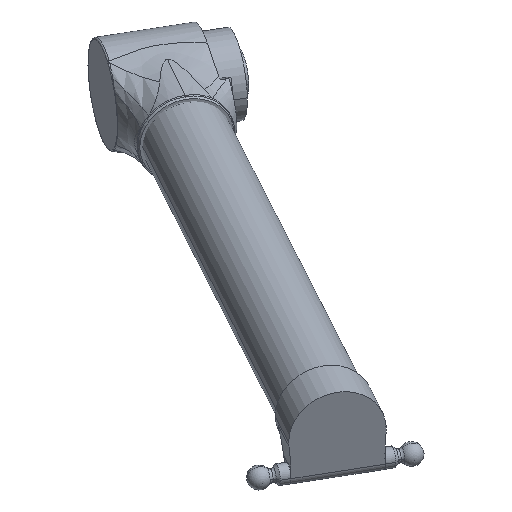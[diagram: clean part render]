
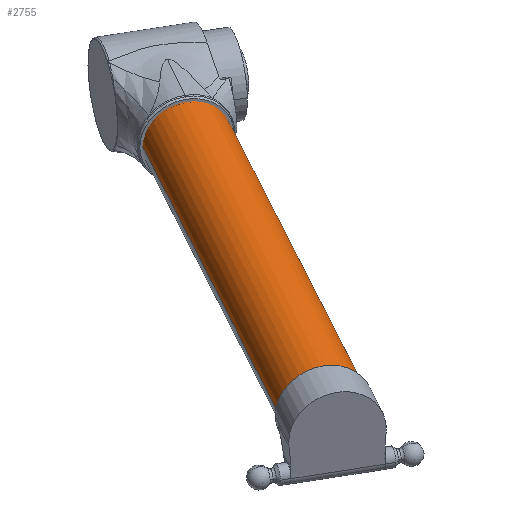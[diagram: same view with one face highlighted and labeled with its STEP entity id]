
A CAD part, isometric view. The second image highlights one B-rep face of the part: STEP entity #2755.
In plain terms, the highlighted cylindrical face has radius 29 mm (diameter 58 mm), a partial arc.
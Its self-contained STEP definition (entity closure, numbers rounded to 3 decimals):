
#38 = DIRECTION ( 'NONE',  ( 0.866, -0.5, 0. ) ) ;
#49 = EDGE_CURVE ( 'NONE', #2679, #90, #3511, .T. ) ;
#90 = VERTEX_POINT ( 'NONE', #3142 ) ;
#109 = CARTESIAN_POINT ( 'NONE',  ( -336.95, -525.614, -248.465 ) ) ;
#499 = AXIS2_PLACEMENT_3D ( 'NONE', #718, #3206, #38 ) ;
#718 = CARTESIAN_POINT ( 'NONE',  ( -120.21, -208.211, -272.468 ) ) ;
#737 = DIRECTION ( 'NONE',  ( -0.866, 0.5, 0. ) ) ;
#888 = AXIS2_PLACEMENT_3D ( 'NONE', #1655, #1866, #3549 ) ;
#943 = EDGE_CURVE ( 'NONE', #90, #1415, #4505, .T. ) ;
#1060 = DIRECTION ( 'NONE',  ( 0.499, 0.864, -0.063 ) ) ;
#1071 = VECTOR ( 'NONE', #3122, 1000. ) ;
#1411 = CARTESIAN_POINT ( 'NONE',  ( -336.95, -525.614, -248.465 ) ) ;
#1412 = CARTESIAN_POINT ( 'NONE',  ( -311.835, -540.114, -248.465 ) ) ;
#1415 = VERTEX_POINT ( 'NONE', #2422 ) ;
#1655 = CARTESIAN_POINT ( 'NONE',  ( -311.835, -540.114, -248.465 ) ) ;
#1683 = VERTEX_POINT ( 'NONE', #1411 ) ;
#1866 = DIRECTION ( 'NONE',  ( -0.499, -0.864, 0.063 ) ) ;
#2008 = AXIS2_PLACEMENT_3D ( 'NONE', #1412, #1060, #737 ) ;
#2285 = ORIENTED_EDGE ( 'NONE', *, *, #943, .T. ) ;
#2422 = CARTESIAN_POINT ( 'NONE',  ( -145.325, -193.711, -272.468 ) ) ;
#2497 = EDGE_CURVE ( 'NONE', #2679, #1683, #3848, .T. ) ;
#2679 = VERTEX_POINT ( 'NONE', #2716 ) ;
#2716 = CARTESIAN_POINT ( 'NONE',  ( -286.72, -554.614, -248.465 ) ) ;
#2755 = ADVANCED_FACE ( 'NONE', ( #3876 ), #3543, .T. ) ;
#2819 = CARTESIAN_POINT ( 'NONE',  ( -286.72, -554.614, -248.465 ) ) ;
#3122 = DIRECTION ( 'NONE',  ( 0.499, 0.864, -0.063 ) ) ;
#3142 = CARTESIAN_POINT ( 'NONE',  ( -95.096, -222.711, -272.468 ) ) ;
#3183 = VECTOR ( 'NONE', #3992, 1000. ) ;
#3206 = DIRECTION ( 'NONE',  ( -0.499, -0.864, 0.063 ) ) ;
#3410 = EDGE_LOOP ( 'NONE', ( #3518, #3960, #2285, #4510 ) ) ;
#3511 = LINE ( 'NONE', #2819, #1071 ) ;
#3518 = ORIENTED_EDGE ( 'NONE', *, *, #2497, .F. ) ;
#3543 = CYLINDRICAL_SURFACE ( 'NONE', #2008, 29. ) ;
#3549 = DIRECTION ( 'NONE',  ( 0.866, -0.5, 0. ) ) ;
#3687 = LINE ( 'NONE', #109, #3183 ) ;
#3848 = CIRCLE ( 'NONE', #888, 29. ) ;
#3876 = FACE_OUTER_BOUND ( 'NONE', #3410, .T. ) ;
#3960 = ORIENTED_EDGE ( 'NONE', *, *, #49, .T. ) ;
#3992 = DIRECTION ( 'NONE',  ( 0.499, 0.864, -0.063 ) ) ;
#4383 = EDGE_CURVE ( 'NONE', #1683, #1415, #3687, .T. ) ;
#4505 = CIRCLE ( 'NONE', #499, 29. ) ;
#4510 = ORIENTED_EDGE ( 'NONE', *, *, #4383, .F. ) ;
